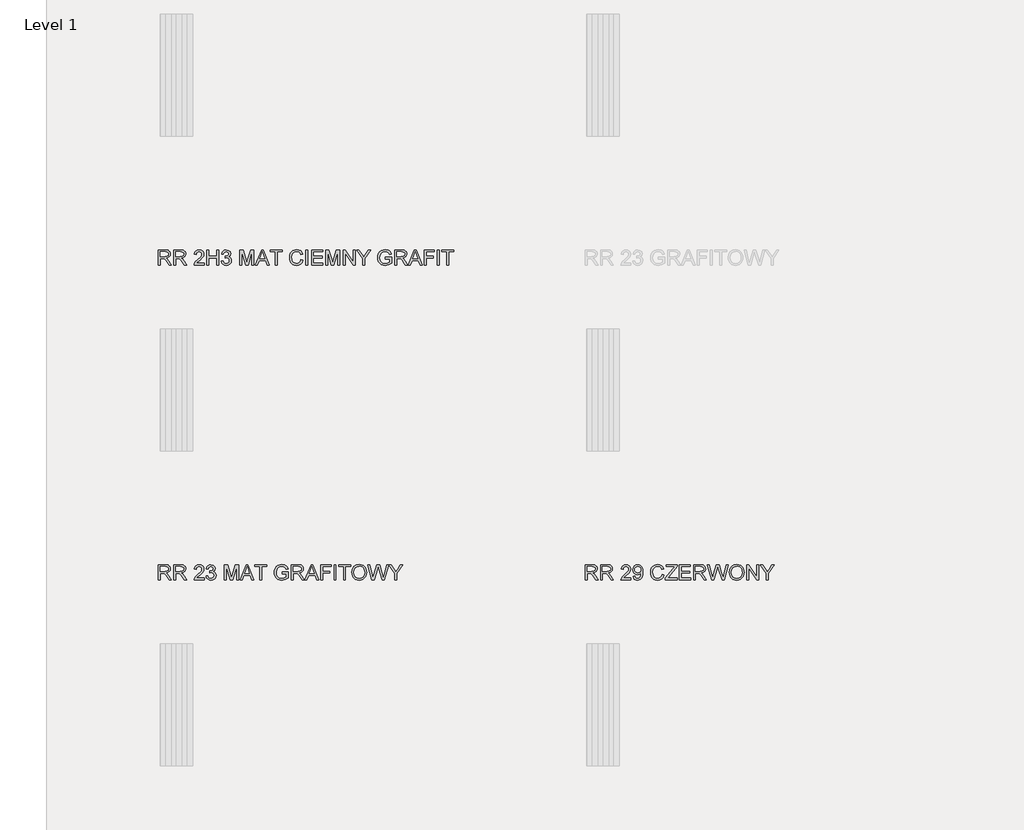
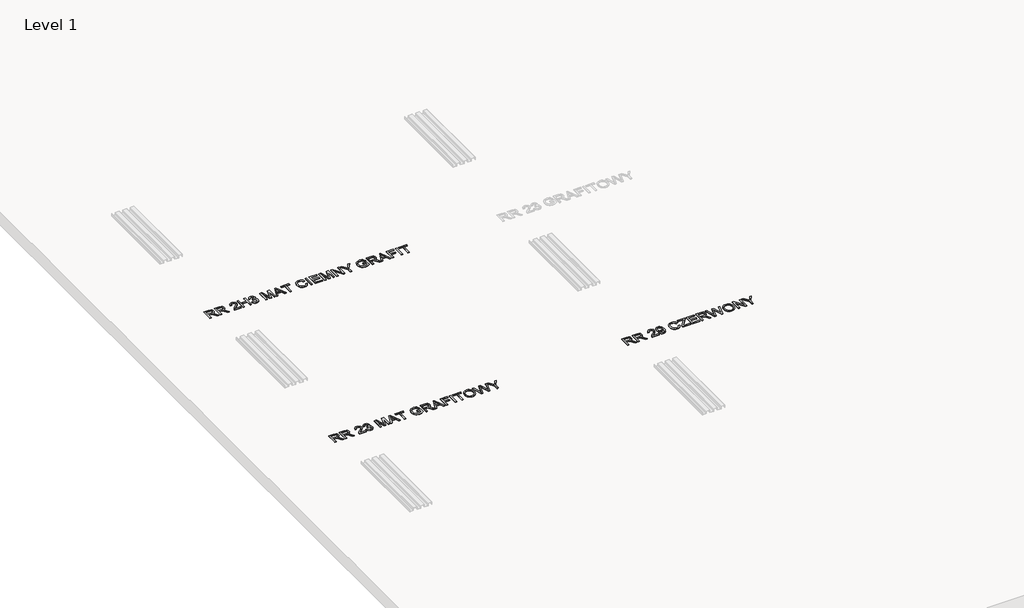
# One storey, part 4 of 9: 3 proxies.
"""IFC4 building model written with IfcOpenShell, lengths in millimetres."""

from ifc_helpers import new_model, si_unit, frame, origin, place, context, project, spatial, polyline, outline, extrude, element, save

model = new_model("IFC4")

# Units and contexts
model_context = context("Model", 3, world=origin())
ifc_project = project(units=[si_unit("LENGTHUNIT", "METRE", prefix="MILLI")], contexts=[model_context])

# Site, building, storey
site = spatial("IfcSite", under=ifc_project)
building = spatial("IfcBuilding", under=site)
storey = spatial("IfcBuildingStorey", under=building, Name="Level 1", Elevation=0.0)

# Proxies
placement = place(None, origin())
element("IfcBuildingElementProxy", 1, Name="150 Blue", ObjectType="150 Blue", at=placement, inside=storey, context=model_context, shape_type="SweptSolid", body=[
    extrude(outline(polyline([(-8736.4118342, -1635.6514112), (-8736.4118342, -1484.966946), (-8671.4806621, -1484.966946), (-8641.3327325, -1489.032042), (-8632.0529092, -1494.6606365), (-8624.8516192, -1503.416228), (-8620.2301016, -1514.2733454), (-8618.6895957, -1526.2065176), (-8621.2417771, -1541.0505561), (-8628.8983211, -1553.3562089), (-8641.8891541, -1562.3785148), (-8660.4442022, -1567.3725129), (-8649.7388361, -1575.4291286), (-8634.4717333, -1594.8165097), (-8609.3453931, -1635.6514112), (-8631.2343718, -1635.6514112), (-8650.8424821, -1604.4182298), (-8665.0059389, -1583.7432617), (-8674.9571469, -1573.9759947), (-8683.9150735, -1570.3891452), (-8694.8411687, -1569.7269577), (-8717.576276, -1569.7269577), (-8717.576276, -1635.6514112), (-8736.4118342, -1635.6514112)]), holes=[polyline([(-8717.576276, -1550.8913995), (-8675.4169994, -1550.8913995), (-8653.9142968, -1548.224255), (-8641.7006145, -1539.6893927), (-8637.5251539, -1526.9054934), (-8639.5163152, -1517.7176406), (-8645.4897991, -1510.3140154), (-8655.7675023, -1505.4303819), (-8670.6713217, -1503.8025041), (-8717.576276, -1503.8025041), (-8717.576276, -1550.8913995)])]), frame((0.0, 0.0, 600.0), z_axis=(0.0, 0.0, 1.0), x_axis=(1.0, 0.0, 0.0)), (0.0, 0.0, 1.0), 10.0),
    extrude(outline(polyline([(-8585.727369, -1635.6514112), (-8585.727369, -1484.966946), (-8520.7961968, -1484.966946), (-8490.6482673, -1489.032042), (-8481.368444, -1494.6606365), (-8474.1671539, -1503.416228), (-8469.5456364, -1514.2733454), (-8468.0051305, -1526.2065176), (-8470.5573119, -1541.0505561), (-8478.2138559, -1553.3562089), (-8491.2046888, -1562.3785148), (-8509.759737, -1567.3725129), (-8499.0543709, -1575.4291286), (-8483.7872681, -1594.8165097), (-8458.6609278, -1635.6514112), (-8480.5499066, -1635.6514112), (-8500.1580169, -1604.4182298), (-8514.3214737, -1583.7432617), (-8524.2726817, -1573.9759947), (-8533.2306083, -1570.3891452), (-8544.1567035, -1569.7269577), (-8566.8918108, -1569.7269577), (-8566.8918108, -1635.6514112), (-8585.727369, -1635.6514112)]), holes=[polyline([(-8566.8918108, -1550.8913995), (-8524.7325342, -1550.8913995), (-8503.2298316, -1548.224255), (-8491.0161493, -1539.6893927), (-8486.8406887, -1526.9054934), (-8488.83185, -1517.7176406), (-8494.8053339, -1510.3140154), (-8505.0830371, -1505.4303819), (-8519.9868564, -1503.8025041), (-8566.8918108, -1503.8025041), (-8566.8918108, -1550.8913995)])]), frame((0.0, 0.0, 600.0), z_axis=(0.0, 0.0, 1.0), x_axis=(1.0, 0.0, 0.0)), (0.0, 0.0, 1.0), 10.0),
    extrude(outline(polyline([(-8286.7128833, -1616.815853), (-8286.7128833, -1635.6514112), (-8385.5995636, -1635.6514112), (-8383.5762126, -1622.6651768), (-8372.1166885, -1602.6707903), (-8348.5170585, -1580.8369939), (-8316.0146842, -1549.4566597), (-8309.9308357, -1538.6409291), (-8307.9028862, -1528.119504), (-8309.8204711, -1518.6879293), (-8315.5732258, -1510.8474443), (-8324.4161893, -1505.5637392), (-8335.6044005, -1503.8025041), (-8347.3536317, -1505.5223524), (-8356.4817037, -1510.6818974), (-8362.3724141, -1518.8764689), (-8364.4095607, -1529.7013966), (-8383.2451188, -1527.3469518), (-8378.6787836, -1509.127596), (-8368.8057505, -1495.8194648), (-8354.1410545, -1487.6800757), (-8335.1997303, -1484.966946), (-8316.1204503, -1487.9835783), (-8301.4833454, -1497.0334754), (-8292.1713324, -1510.5531387), (-8289.0673281, -1526.9790698), (-8292.4150542, -1544.8397407), (-8303.5434846, -1563.3074168), (-8330.5276289, -1589.1143388), (-8352.1958784, -1607.2325271), (-8360.6939525, -1616.815853), (-8286.7128833, -1616.815853)])), frame((0.0, 0.0, 600.0), z_axis=(0.0, 0.0, 1.0), x_axis=(1.0, 0.0, 0.0)), (0.0, 0.0, 1.0), 10.0),
    extrude(outline(polyline([(-8260.8139908, -1635.6514112), (-8260.8139908, -1484.966946), (-8241.9784327, -1484.966946), (-8241.9784327, -1546.18251), (-8161.9273105, -1546.18251), (-8161.9273105, -1484.966946), (-8143.0917524, -1484.966946), (-8143.0917524, -1635.6514112), (-8161.9273105, -1635.6514112), (-8161.9273105, -1565.0180681), (-8241.9784327, -1565.0180681), (-8241.9784327, -1635.6514112), (-8260.8139908, -1635.6514112)])), frame((0.0, 0.0, 600.0), z_axis=(0.0, 0.0, 1.0), x_axis=(1.0, 0.0, 0.0)), (0.0, 0.0, 1.0), 10.0),
    extrude(outline(polyline([(-8117.1928599, -1595.6258501), (-8098.3573018, -1593.2714053), (-8094.1404544, -1605.1080085), (-8087.9646354, -1613.1002449), (-8079.5263421, -1617.6527846), (-8068.522072, -1619.1702978), (-8055.6094139, -1617.0825675), (-8045.6398119, -1610.8193765), (-8039.2662563, -1601.4751738), (-8037.1417378, -1590.1444084), (-8039.2478622, -1579.3884586), (-8045.5662355, -1570.6650567), (-8055.1311673, -1564.8847109), (-8066.9769676, -1562.9579289), (-8080.1839312, -1565.0180681), (-8078.0870038, -1546.18251), (-8075.0703715, -1546.4032392), (-8053.6964276, -1540.9953738), (-8046.5779109, -1534.1343746), (-8044.2050721, -1524.3671076), (-8045.9249204, -1516.232317), (-8051.0844654, -1509.6334337), (-8058.9571401, -1505.2602365), (-8068.8163776, -1503.8025041), (-8078.6940091, -1505.2740321), (-8086.7690189, -1509.688616), (-8092.6643279, -1517.0462559), (-8096.002857, -1527.3469518), (-8114.8384152, -1524.992507), (-8109.2925941, -1508.0791323), (-8099.4241596, -1495.4515828), (-8085.9228903, -1487.5881052), (-8069.4785651, -1484.966946), (-8046.7618519, -1490.135688), (-8030.8693498, -1504.2623566), (-8025.3695139, -1523.2634617), (-8030.5934383, -1540.6274918), (-8046.0444821, -1553.0986915), (-8034.2538641, -1557.8627633), (-8025.5166667, -1565.9745613), (-8020.1088014, -1576.9926271), (-8018.3061796, -1590.4755022), (-8021.9114232, -1608.8328137), (-8032.7271538, -1624.1734929), (-8049.0519174, -1634.5477652), (-8069.1842596, -1638.005856), (-8087.3944183, -1635.0536029), (-8102.2200627, -1626.1968439), (-8112.5299556, -1612.6495894), (-8117.1928599, -1595.6258501)])), frame((0.0, 0.0, 600.0), z_axis=(0.0, 0.0, 1.0), x_axis=(1.0, 0.0, 0.0)), (0.0, 0.0, 1.0), 10.0),
    extrude(outline(polyline([(-7935.9006127, -1635.6514112), (-7935.9006127, -1484.966946), (-7903.6005735, -1484.966946), (-7872.6984859, -1591.174478), (-7866.444492, -1613.3577623), (-7859.7122515, -1589.335068), (-7829.3987751, -1484.966946), (-7796.9883713, -1484.966946), (-7796.9883713, -1635.6514112), (-7815.8239295, -1635.6514112), (-7815.8239295, -1503.8025041), (-7853.6789868, -1635.6514112), (-7879.173209, -1635.6514112), (-7917.0650545, -1503.8025041), (-7917.0650545, -1635.6514112), (-7935.9006127, -1635.6514112)])), frame((0.0, 0.0, 600.0), z_axis=(0.0, 0.0, 1.0), x_axis=(1.0, 0.0, 0.0)), (0.0, 0.0, 1.0), 10.0),
    extrude(outline(polyline([(-7781.5373275, -1635.6514112), (-7721.3886213, -1484.966946), (-7705.3489663, -1484.966946), (-7645.2370483, -1635.6514112), (-7665.1394642, -1635.6514112), (-7682.3563416, -1588.5625158), (-7744.4548224, -1588.5625158), (-7761.6716998, -1635.6514112), (-7781.5373275, -1635.6514112)]), holes=[polyline([(-7737.5386409, -1569.7269577), (-7689.2357349, -1569.7269577), (-7702.8473688, -1532.6812407), (-7713.405582, -1503.8025041), (-7722.7865729, -1529.4438792), (-7737.5386409, -1569.7269577)])]), frame((0.0, 0.0, 600.0), z_axis=(0.0, 0.0, 1.0), x_axis=(1.0, 0.0, 0.0)), (0.0, 0.0, 1.0), 10.0),
    extrude(outline(polyline([(-7587.4427869, -1635.6514112), (-7587.4427869, -1503.8025041), (-7636.886127, -1503.8025041), (-7636.886127, -1484.966946), (-7519.1638886, -1484.966946), (-7519.1638886, -1503.8025041), (-7568.6072287, -1503.8025041), (-7568.6072287, -1635.6514112), (-7587.4427869, -1635.6514112)])), frame((0.0, 0.0, 600.0), z_axis=(0.0, 0.0, 1.0), x_axis=(1.0, 0.0, 0.0)), (0.0, 0.0, 1.0), 10.0),
    extrude(outline(polyline([(-7333.1627518, -1582.0877927), (-7314.3271936, -1586.943835), (-7323.0184058, -1608.8925946), (-7336.6576308, -1624.927651), (-7354.5734839, -1634.7363047), (-7376.0945806, -1638.005856), (-7397.9421726, -1635.5318495), (-7415.2924072, -1628.1098303), (-7428.5913413, -1615.9973156), (-7438.2850319, -1599.4518229), (-7444.2033335, -1580.0000624), (-7446.1761007, -1559.1687444), (-7443.9458161, -1537.1969922), (-7437.2549623, -1518.2234783), (-7426.4530273, -1502.8506095), (-7411.8894988, -1491.6807924), (-7394.6174391, -1484.879574), (-7375.6899104, -1482.6125012), (-7355.0379349, -1485.5463601), (-7337.9636118, -1494.3479368), (-7325.00037, -1508.4746055), (-7316.6816384, -1527.38374), (-7335.5171966, -1531.8719003), (-7342.047102, -1518.1361064), (-7350.9682404, -1508.7137288), (-7362.3909763, -1503.2644767), (-7376.4256744, -1501.4480593), (-7392.6032852, -1503.4622133), (-7405.8930222, -1509.504675), (-7415.9775874, -1518.9408482), (-7422.5396825, -1531.1361364), (-7427.3405426, -1559.1319562), (-7425.9195984, -1576.5327746), (-7421.6567657, -1591.5791482), (-7414.3910963, -1603.6962614), (-7403.9616418, -1612.3092986), (-7391.4582525, -1617.455048), (-7377.9707788, -1619.1702978), (-7362.248422, -1616.8342471), (-7349.1472245, -1609.8260951), (-7339.2557973, -1598.2194182), (-7333.1627518, -1582.0877927)])), frame((0.0, 0.0, 600.0), z_axis=(0.0, 0.0, 1.0), x_axis=(1.0, 0.0, 0.0)), (0.0, 0.0, 1.0), 10.0),
    extrude(outline(polyline([(-7286.0738564, -1635.6514112), (-7286.0738564, -1484.966946), (-7267.2382983, -1484.966946), (-7267.2382983, -1635.6514112), (-7286.0738564, -1635.6514112)])), frame((0.0, 0.0, 600.0), z_axis=(0.0, 0.0, 1.0), x_axis=(1.0, 0.0, 0.0)), (0.0, 0.0, 1.0), 10.0),
    extrude(outline(polyline([(-7229.567182, -1635.6514112), (-7229.567182, -1484.966946), (-7121.2627226, -1484.966946), (-7121.2627226, -1503.8025041), (-7210.7316238, -1503.8025041), (-7210.7316238, -1548.5369547), (-7125.9716121, -1548.5369547), (-7125.9716121, -1567.3725129), (-7210.7316238, -1567.3725129), (-7210.7316238, -1616.815853), (-7118.9082778, -1616.815853), (-7118.9082778, -1635.6514112), (-7229.567182, -1635.6514112)])), frame((0.0, 0.0, 600.0), z_axis=(0.0, 0.0, 1.0), x_axis=(1.0, 0.0, 0.0)), (0.0, 0.0, 1.0), 10.0),
    extrude(outline(polyline([(-7090.6549406, -1635.6514112), (-7090.6549406, -1484.966946), (-7058.3549014, -1484.966946), (-7027.4528138, -1591.174478), (-7021.1988199, -1613.3577623), (-7014.4665794, -1589.335068), (-6984.153103, -1484.966946), (-6951.7426992, -1484.966946), (-6951.7426992, -1635.6514112), (-6970.5782574, -1635.6514112), (-6970.5782574, -1503.8025041), (-7008.4333147, -1635.6514112), (-7033.9275369, -1635.6514112), (-7071.8193824, -1503.8025041), (-7071.8193824, -1635.6514112), (-7090.6549406, -1635.6514112)])), frame((0.0, 0.0, 600.0), z_axis=(0.0, 0.0, 1.0), x_axis=(1.0, 0.0, 0.0)), (0.0, 0.0, 1.0), 10.0),
    extrude(outline(polyline([(-6918.7804724, -1635.6514112), (-6918.7804724, -1484.966946), (-6898.6205391, -1484.966946), (-6819.8937921, -1604.3446534), (-6819.8937921, -1484.966946), (-6801.058234, -1484.966946), (-6801.058234, -1635.6514112), (-6821.2181673, -1635.6514112), (-6899.9449143, -1516.2369156), (-6899.9449143, -1635.6514112), (-6918.7804724, -1635.6514112)])), frame((0.0, 0.0, 600.0), z_axis=(0.0, 0.0, 1.0), x_axis=(1.0, 0.0, 0.0)), (0.0, 0.0, 1.0), 10.0),
    extrude(outline(polyline([(-6725.7160014, -1635.6514112), (-6725.7160014, -1571.823885), (-6784.5771206, -1484.966946), (-6762.3938363, -1484.966946), (-6730.9767139, -1531.3568656), (-6714.9002707, -1555.048466), (-6698.7502511, -1529.6646084), (-6670.2393965, -1484.966946), (-6648.019324, -1484.966946), (-6706.8804432, -1571.823885), (-6706.8804432, -1635.6514112), (-6725.7160014, -1635.6514112)])), frame((0.0, 0.0, 600.0), z_axis=(0.0, 0.0, 1.0), x_axis=(1.0, 0.0, 0.0)), (0.0, 0.0, 1.0), 10.0),
    extrude(outline(polyline([(-6502.0437483, -1576.790292), (-6502.0437483, -1557.9547338), (-6440.8281843, -1557.9547338), (-6440.8281843, -1614.2774673), (-6471.0496902, -1632.0461676), (-6503.0002415, -1638.005856), (-6524.1304636, -1635.6376156), (-6543.2281377, -1628.5328946), (-6559.0930487, -1616.9400132), (-6570.5249817, -1601.1072918), (-6577.4365647, -1582.1153838), (-6579.7404257, -1561.0449426), (-6577.4457617, -1539.82275), (-6570.5617699, -1520.0812824), (-6559.3735587, -1503.5219941), (-6544.1662367, -1491.8463393), (-6525.6433783, -1484.9209607), (-6504.5085577, -1482.6125012), (-6475.0412099, -1487.9651842), (-6463.2919786, -1494.3663309), (-6454.3846358, -1502.864405), (-6442.9986881, -1527.7884102), (-6460.3627182, -1532.6812407), (-6468.9527628, -1515.2620283), (-6483.6312544, -1505.2188498), (-6504.8028633, -1501.4480593), (-6528.917528, -1505.5131554), (-6545.325065, -1516.1817333), (-6555.0187556, -1530.694678), (-6560.9048675, -1560.2723904), (-6559.1344354, -1578.2848126), (-6553.8231391, -1593.1058584), (-6545.131927, -1604.6297619), (-6533.2217474, -1612.750757), (-6519.2836183, -1617.5654126), (-6504.5085577, -1619.1702978), (-6478.7384239, -1614.3326496), (-6459.6637425, -1604.0135596), (-6459.6637425, -1576.790292), (-6502.0437483, -1576.790292)])), frame((0.0, 0.0, 600.0), z_axis=(0.0, 0.0, 1.0), x_axis=(1.0, 0.0, 0.0)), (0.0, 0.0, 1.0), 10.0),
    extrude(outline(polyline([(-6410.2204023, -1635.6514112), (-6410.2204023, -1484.966946), (-6345.2892302, -1484.966946), (-6315.1413006, -1489.032042), (-6305.8614773, -1494.6606365), (-6298.6601873, -1503.416228), (-6294.0386697, -1514.2733454), (-6292.4981638, -1526.2065176), (-6295.0503452, -1541.0505561), (-6302.7068892, -1553.3562089), (-6315.6977222, -1562.3785148), (-6334.2527703, -1567.3725129), (-6323.5474042, -1575.4291286), (-6308.2803014, -1594.8165097), (-6283.1539612, -1635.6514112), (-6305.0429399, -1635.6514112), (-6324.6510502, -1604.4182298), (-6338.814507, -1583.7432617), (-6348.765715, -1573.9759947), (-6357.7236416, -1570.3891452), (-6368.6497368, -1569.7269577), (-6391.3848441, -1569.7269577), (-6391.3848441, -1635.6514112), (-6410.2204023, -1635.6514112)]), holes=[polyline([(-6391.3848441, -1550.8913995), (-6349.2255675, -1550.8913995), (-6327.7228649, -1548.224255), (-6315.5091826, -1539.6893927), (-6311.333722, -1526.9054934), (-6313.3248833, -1517.7176406), (-6319.2983672, -1510.3140154), (-6329.5760704, -1505.4303819), (-6344.4798898, -1503.8025041), (-6391.3848441, -1503.8025041), (-6391.3848441, -1550.8913995)])]), frame((0.0, 0.0, 600.0), z_axis=(0.0, 0.0, 1.0), x_axis=(1.0, 0.0, 0.0)), (0.0, 0.0, 1.0), 10.0),
    extrude(outline(polyline([(-6277.04712, -1635.6514112), (-6216.8984138, -1484.966946), (-6200.8587588, -1484.966946), (-6140.7468408, -1635.6514112), (-6160.6492568, -1635.6514112), (-6177.8661341, -1588.5625158), (-6239.9646149, -1588.5625158), (-6257.1814923, -1635.6514112), (-6277.04712, -1635.6514112)]), holes=[polyline([(-6233.0484334, -1569.7269577), (-6184.7455275, -1569.7269577), (-6198.3571613, -1532.6812407), (-6208.9153745, -1503.8025041), (-6218.2963654, -1529.4438792), (-6233.0484334, -1569.7269577)])]), frame((0.0, 0.0, 600.0), z_axis=(0.0, 0.0, 1.0), x_axis=(1.0, 0.0, 0.0)), (0.0, 0.0, 1.0), 10.0),
    extrude(outline(polyline([(-6120.6236957, -1635.6514112), (-6120.6236957, -1484.966946), (-6019.3825706, -1484.966946), (-6019.3825706, -1503.8025041), (-6101.7881375, -1503.8025041), (-6101.7881375, -1548.5369547), (-6031.1547945, -1548.5369547), (-6031.1547945, -1567.3725129), (-6101.7881375, -1567.3725129), (-6101.7881375, -1635.6514112), (-6120.6236957, -1635.6514112)])), frame((0.0, 0.0, 600.0), z_axis=(0.0, 0.0, 1.0), x_axis=(1.0, 0.0, 0.0)), (0.0, 0.0, 1.0), 10.0),
    extrude(outline(polyline([(-5991.1292334, -1635.6514112), (-5991.1292334, -1484.966946), (-5972.2936752, -1484.966946), (-5972.2936752, -1635.6514112), (-5991.1292334, -1635.6514112)])), frame((0.0, 0.0, 600.0), z_axis=(0.0, 0.0, 1.0), x_axis=(1.0, 0.0, 0.0)), (0.0, 0.0, 1.0), 10.0),
    extrude(outline(polyline([(-5896.9514426, -1635.6514112), (-5896.9514426, -1503.8025041), (-5946.3947828, -1503.8025041), (-5946.3947828, -1484.966946), (-5828.6725443, -1484.966946), (-5828.6725443, -1503.8025041), (-5878.1158845, -1503.8025041), (-5878.1158845, -1635.6514112), (-5896.9514426, -1635.6514112)])), frame((0.0, 0.0, 600.0), z_axis=(0.0, 0.0, 1.0), x_axis=(1.0, 0.0, 0.0)), (0.0, 0.0, 1.0), 10.0),
])
element("IfcBuildingElementProxy", 2, Name="150 Blue", ObjectType="150 Blue", at=placement, inside=storey, context=model_context, shape_type="SweptSolid", body=[
    extrude(outline(polyline([(-8736.4118342, -4735.6514112), (-8736.4118342, -4584.966946), (-8671.4806621, -4584.966946), (-8641.3327325, -4589.032042), (-8632.0529092, -4594.6606365), (-8624.8516192, -4603.416228), (-8620.2301016, -4614.2733454), (-8618.6895957, -4626.2065176), (-8621.2417771, -4641.0505561), (-8628.8983211, -4653.3562089), (-8641.8891541, -4662.3785148), (-8660.4442022, -4667.3725129), (-8649.7388361, -4675.4291286), (-8634.4717333, -4694.8165097), (-8609.3453931, -4735.6514112), (-8631.2343718, -4735.6514112), (-8650.8424821, -4704.4182298), (-8665.0059389, -4683.7432617), (-8674.9571469, -4673.9759947), (-8683.9150735, -4670.3891452), (-8694.8411687, -4669.7269577), (-8717.576276, -4669.7269577), (-8717.576276, -4735.6514112), (-8736.4118342, -4735.6514112)]), holes=[polyline([(-8717.576276, -4650.8913995), (-8675.4169994, -4650.8913995), (-8653.9142968, -4648.224255), (-8641.7006145, -4639.6893927), (-8637.5251539, -4626.9054934), (-8639.5163152, -4617.7176406), (-8645.4897991, -4610.3140154), (-8655.7675023, -4605.4303819), (-8670.6713217, -4603.8025041), (-8717.576276, -4603.8025041), (-8717.576276, -4650.8913995)])]), frame((0.0, 0.0, 600.0), z_axis=(0.0, 0.0, 1.0), x_axis=(1.0, 0.0, 0.0)), (0.0, 0.0, 1.0), 10.0),
    extrude(outline(polyline([(-8585.727369, -4735.6514112), (-8585.727369, -4584.966946), (-8520.7961968, -4584.966946), (-8490.6482673, -4589.032042), (-8481.368444, -4594.6606365), (-8474.1671539, -4603.416228), (-8469.5456364, -4614.2733454), (-8468.0051305, -4626.2065176), (-8470.5573119, -4641.0505561), (-8478.2138559, -4653.3562089), (-8491.2046888, -4662.3785148), (-8509.759737, -4667.3725129), (-8499.0543709, -4675.4291286), (-8483.7872681, -4694.8165097), (-8458.6609278, -4735.6514112), (-8480.5499066, -4735.6514112), (-8500.1580169, -4704.4182298), (-8514.3214737, -4683.7432617), (-8524.2726817, -4673.9759947), (-8533.2306083, -4670.3891452), (-8544.1567035, -4669.7269577), (-8566.8918108, -4669.7269577), (-8566.8918108, -4735.6514112), (-8585.727369, -4735.6514112)]), holes=[polyline([(-8566.8918108, -4650.8913995), (-8524.7325342, -4650.8913995), (-8503.2298316, -4648.224255), (-8491.0161493, -4639.6893927), (-8486.8406887, -4626.9054934), (-8488.83185, -4617.7176406), (-8494.8053339, -4610.3140154), (-8505.0830371, -4605.4303819), (-8519.9868564, -4603.8025041), (-8566.8918108, -4603.8025041), (-8566.8918108, -4650.8913995)])]), frame((0.0, 0.0, 600.0), z_axis=(0.0, 0.0, 1.0), x_axis=(1.0, 0.0, 0.0)), (0.0, 0.0, 1.0), 10.0),
    extrude(outline(polyline([(-8286.7128833, -4716.815853), (-8286.7128833, -4735.6514112), (-8385.5995636, -4735.6514112), (-8383.5762126, -4722.6651768), (-8372.1166885, -4702.6707903), (-8348.5170585, -4680.8369939), (-8316.0146842, -4649.4566597), (-8309.9308357, -4638.6409291), (-8307.9028862, -4628.119504), (-8309.8204711, -4618.6879293), (-8315.5732258, -4610.8474443), (-8324.4161893, -4605.5637392), (-8335.6044005, -4603.8025041), (-8347.3536317, -4605.5223524), (-8356.4817037, -4610.6818974), (-8362.3724141, -4618.8764689), (-8364.4095607, -4629.7013966), (-8383.2451188, -4627.3469518), (-8378.6787836, -4609.127596), (-8368.8057505, -4595.8194648), (-8354.1410545, -4587.6800757), (-8335.1997303, -4584.966946), (-8316.1204503, -4587.9835783), (-8301.4833454, -4597.0334754), (-8292.1713324, -4610.5531387), (-8289.0673281, -4626.9790698), (-8292.4150542, -4644.8397407), (-8303.5434846, -4663.3074168), (-8330.5276289, -4689.1143388), (-8352.1958784, -4707.2325271), (-8360.6939525, -4716.815853), (-8286.7128833, -4716.815853)])), frame((0.0, 0.0, 600.0), z_axis=(0.0, 0.0, 1.0), x_axis=(1.0, 0.0, 0.0)), (0.0, 0.0, 1.0), 10.0),
    extrude(outline(polyline([(-8267.8773251, -4695.6258501), (-8249.041767, -4693.2714053), (-8244.8249196, -4705.1080085), (-8238.6491006, -4713.1002449), (-8230.2108074, -4717.6527846), (-8219.2065372, -4719.1702978), (-8206.2938792, -4717.0825675), (-8196.3242771, -4710.8193765), (-8189.9507215, -4701.4751738), (-8187.826203, -4690.1444084), (-8189.9323274, -4679.3884586), (-8196.2507007, -4670.6650567), (-8205.8156326, -4664.8847109), (-8217.6614328, -4662.9579289), (-8230.8683964, -4665.0180681), (-8228.7714691, -4646.18251), (-8225.7548367, -4646.4032392), (-8204.3808928, -4640.9953738), (-8197.2623762, -4634.1343746), (-8194.8895373, -4624.3671076), (-8196.6093856, -4616.232317), (-8201.7689306, -4609.6334337), (-8209.6416053, -4605.2602365), (-8219.5008428, -4603.8025041), (-8229.3784744, -4605.2740321), (-8237.4534841, -4609.688616), (-8243.3487931, -4617.0462559), (-8246.6873222, -4627.3469518), (-8265.5228804, -4624.992507), (-8259.9770593, -4608.0791323), (-8250.1086248, -4595.4515828), (-8236.6073556, -4587.5881052), (-8220.1630304, -4584.966946), (-8197.4463172, -4590.135688), (-8181.553815, -4604.2623566), (-8176.0539791, -4623.2634617), (-8181.2779035, -4640.6274918), (-8196.7289473, -4653.0986915), (-8184.9383293, -4657.8627633), (-8176.2011319, -4665.9745613), (-8170.7932666, -4676.9926271), (-8168.9906448, -4690.4755022), (-8172.5958884, -4708.8328137), (-8183.4116191, -4724.1734929), (-8199.7363826, -4734.5477652), (-8219.8687248, -4738.005856), (-8238.0788835, -4735.0536029), (-8252.9045279, -4726.1968439), (-8263.2144209, -4712.6495894), (-8267.8773251, -4695.6258501)])), frame((0.0, 0.0, 600.0), z_axis=(0.0, 0.0, 1.0), x_axis=(1.0, 0.0, 0.0)), (0.0, 0.0, 1.0), 10.0),
    extrude(outline(polyline([(-8086.5850779, -4735.6514112), (-8086.5850779, -4584.966946), (-8054.2850387, -4584.966946), (-8023.3829512, -4691.174478), (-8017.1289572, -4713.3577623), (-8010.3967167, -4689.335068), (-7980.0832403, -4584.966946), (-7947.6728365, -4584.966946), (-7947.6728365, -4735.6514112), (-7966.5083947, -4735.6514112), (-7966.5083947, -4603.8025041), (-8004.363452, -4735.6514112), (-8029.8576743, -4735.6514112), (-8067.7495198, -4603.8025041), (-8067.7495198, -4735.6514112), (-8086.5850779, -4735.6514112)])), frame((0.0, 0.0, 600.0), z_axis=(0.0, 0.0, 1.0), x_axis=(1.0, 0.0, 0.0)), (0.0, 0.0, 1.0), 10.0),
    extrude(outline(polyline([(-7932.2217927, -4735.6514112), (-7872.0730865, -4584.966946), (-7856.0334315, -4584.966946), (-7795.9215135, -4735.6514112), (-7815.8239295, -4735.6514112), (-7833.0408068, -4688.5625158), (-7895.1392876, -4688.5625158), (-7912.356165, -4735.6514112), (-7932.2217927, -4735.6514112)]), holes=[polyline([(-7888.2231061, -4669.7269577), (-7839.9202002, -4669.7269577), (-7853.531834, -4632.6812407), (-7864.0900472, -4603.8025041), (-7873.4710381, -4629.4438792), (-7888.2231061, -4669.7269577)])]), frame((0.0, 0.0, 600.0), z_axis=(0.0, 0.0, 1.0), x_axis=(1.0, 0.0, 0.0)), (0.0, 0.0, 1.0), 10.0),
    extrude(outline(polyline([(-7738.1272521, -4735.6514112), (-7738.1272521, -4603.8025041), (-7787.5705922, -4603.8025041), (-7787.5705922, -4584.966946), (-7669.8483538, -4584.966946), (-7669.8483538, -4603.8025041), (-7719.2916939, -4603.8025041), (-7719.2916939, -4735.6514112), (-7738.1272521, -4735.6514112)])), frame((0.0, 0.0, 600.0), z_axis=(0.0, 0.0, 1.0), x_axis=(1.0, 0.0, 0.0)), (0.0, 0.0, 1.0), 10.0),
    extrude(outline(polyline([(-7519.1638886, -4676.790292), (-7519.1638886, -4657.9547338), (-7457.9483246, -4657.9547338), (-7457.9483246, -4714.2774673), (-7488.1698305, -4732.0461676), (-7520.1203817, -4738.005856), (-7541.2506038, -4735.6376156), (-7560.3482779, -4728.5328946), (-7576.213189, -4716.9400132), (-7587.645122, -4701.1072918), (-7594.5567049, -4682.1153838), (-7596.8605659, -4661.0449426), (-7594.565902, -4639.82275), (-7587.6819102, -4620.0812824), (-7576.493699, -4603.5219941), (-7561.286377, -4591.8463393), (-7542.7635186, -4584.9209607), (-7521.6286979, -4582.6125012), (-7492.1613501, -4587.9651842), (-7480.4121189, -4594.3663309), (-7471.5047761, -4602.864405), (-7460.1188283, -4627.7884102), (-7477.4828585, -4632.6812407), (-7486.0729031, -4615.2620283), (-7500.7513947, -4605.2188498), (-7521.9230035, -4601.4480593), (-7546.0376683, -4605.5131554), (-7562.4452053, -4616.1817333), (-7572.1388959, -4630.694678), (-7578.0250078, -4660.2723904), (-7576.2545757, -4678.2848126), (-7570.9432794, -4693.1058584), (-7562.2520672, -4704.6297619), (-7550.3418877, -4712.750757), (-7536.4037586, -4717.5654126), (-7521.6286979, -4719.1702978), (-7495.8585642, -4714.3326496), (-7476.7838827, -4704.0135596), (-7476.7838827, -4676.790292), (-7519.1638886, -4676.790292)])), frame((0.0, 0.0, 600.0), z_axis=(0.0, 0.0, 1.0), x_axis=(1.0, 0.0, 0.0)), (0.0, 0.0, 1.0), 10.0),
    extrude(outline(polyline([(-7427.3405426, -4735.6514112), (-7427.3405426, -4584.966946), (-7362.4093704, -4584.966946), (-7332.2614409, -4589.032042), (-7322.9816176, -4594.6606365), (-7315.7803275, -4603.416228), (-7311.15881, -4614.2733454), (-7309.6183041, -4626.2065176), (-7312.1704855, -4641.0505561), (-7319.8270295, -4653.3562089), (-7332.8178624, -4662.3785148), (-7351.3729106, -4667.3725129), (-7340.6675445, -4675.4291286), (-7325.4004417, -4694.8165097), (-7300.2741014, -4735.6514112), (-7322.1630801, -4735.6514112), (-7341.7711905, -4704.4182298), (-7355.9346473, -4683.7432617), (-7365.8858553, -4673.9759947), (-7374.8437819, -4670.3891452), (-7385.7698771, -4669.7269577), (-7408.5049844, -4669.7269577), (-7408.5049844, -4735.6514112), (-7427.3405426, -4735.6514112)]), holes=[polyline([(-7408.5049844, -4650.8913995), (-7366.3457078, -4650.8913995), (-7344.8430051, -4648.224255), (-7332.6293229, -4639.6893927), (-7328.4538623, -4626.9054934), (-7330.4450236, -4617.7176406), (-7336.4185075, -4610.3140154), (-7346.6962107, -4605.4303819), (-7361.60003, -4603.8025041), (-7408.5049844, -4603.8025041), (-7408.5049844, -4650.8913995)])]), frame((0.0, 0.0, 600.0), z_axis=(0.0, 0.0, 1.0), x_axis=(1.0, 0.0, 0.0)), (0.0, 0.0, 1.0), 10.0),
    extrude(outline(polyline([(-7294.1672603, -4735.6514112), (-7234.0185541, -4584.966946), (-7217.9788991, -4584.966946), (-7157.8669811, -4735.6514112), (-7177.769397, -4735.6514112), (-7194.9862744, -4688.5625158), (-7257.0847552, -4688.5625158), (-7274.3016326, -4735.6514112), (-7294.1672603, -4735.6514112)]), holes=[polyline([(-7250.1685737, -4669.7269577), (-7201.8656677, -4669.7269577), (-7215.4773015, -4632.6812407), (-7226.0355148, -4603.8025041), (-7235.4165057, -4629.4438792), (-7250.1685737, -4669.7269577)])]), frame((0.0, 0.0, 600.0), z_axis=(0.0, 0.0, 1.0), x_axis=(1.0, 0.0, 0.0)), (0.0, 0.0, 1.0), 10.0),
    extrude(outline(polyline([(-7137.743836, -4735.6514112), (-7137.743836, -4584.966946), (-7036.5027109, -4584.966946), (-7036.5027109, -4603.8025041), (-7118.9082778, -4603.8025041), (-7118.9082778, -4648.5369547), (-7048.2749347, -4648.5369547), (-7048.2749347, -4667.3725129), (-7118.9082778, -4667.3725129), (-7118.9082778, -4735.6514112), (-7137.743836, -4735.6514112)])), frame((0.0, 0.0, 600.0), z_axis=(0.0, 0.0, 1.0), x_axis=(1.0, 0.0, 0.0)), (0.0, 0.0, 1.0), 10.0),
    extrude(outline(polyline([(-7008.2493737, -4735.6514112), (-7008.2493737, -4584.966946), (-6989.4138155, -4584.966946), (-6989.4138155, -4735.6514112), (-7008.2493737, -4735.6514112)])), frame((0.0, 0.0, 600.0), z_axis=(0.0, 0.0, 1.0), x_axis=(1.0, 0.0, 0.0)), (0.0, 0.0, 1.0), 10.0),
    extrude(outline(polyline([(-6914.0715829, -4735.6514112), (-6914.0715829, -4603.8025041), (-6963.514923, -4603.8025041), (-6963.514923, -4584.966946), (-6845.7926846, -4584.966946), (-6845.7926846, -4603.8025041), (-6895.2360247, -4603.8025041), (-6895.2360247, -4735.6514112), (-6914.0715829, -4735.6514112)])), frame((0.0, 0.0, 600.0), z_axis=(0.0, 0.0, 1.0), x_axis=(1.0, 0.0, 0.0)), (0.0, 0.0, 1.0), 10.0),
    extrude(outline(polyline([(-6831.666016, -4662.2957413), (-6826.6444267, -4628.9748296), (-6820.3674402, -4615.356298), (-6811.579659, -4603.7657159), (-6788.5778373, -4587.9008049), (-6759.7450859, -4582.6125012), (-6739.9806257, -4585.0957047), (-6722.2579106, -4592.5453151), (-6707.5426308, -4604.4371006), (-6696.8004765, -4620.2468293), (-6690.2337829, -4639.2111462), (-6688.0448851, -4660.566696), (-6690.3487461, -4682.2073543), (-6697.260329, -4701.4383856), (-6708.3979564, -4717.2757055), (-6723.3799507, -4728.7352297), (-6740.9509145, -4735.6881994), (-6759.8554505, -4738.005856), (-6779.9234134, -4735.4444776), (-6797.747296, -4727.7603424), (-6812.4257876, -4715.6478277), (-6823.0575773, -4699.8013108), (-6829.5139063, -4681.5681594), (-6831.666016, -4662.2957413)]), holes=[polyline([(-6812.8304578, -4662.4796823), (-6809.0642659, -4686.0517212), (-6797.7656901, -4704.0135596), (-6780.7833375, -4715.3811133), (-6759.9658151, -4719.1702978), (-6738.8447901, -4715.3443251), (-6721.8348463, -4703.8664068), (-6710.619044, -4685.3527454), (-6706.8804432, -4660.4195432), (-6708.4807299, -4643.7452917), (-6713.2815899, -4629.3335146), (-6721.1588631, -4617.5474952), (-6731.9883894, -4608.750517), (-6745.0527987, -4603.2736737), (-6759.6347213, -4601.4480593), (-6779.8958222, -4604.9659309), (-6797.1218966, -4615.5195457), (-6808.9033175, -4634.295323), (-6812.8304578, -4662.4796823)])]), frame((0.0, 0.0, 600.0), z_axis=(0.0, 0.0, 1.0), x_axis=(1.0, 0.0, 0.0)), (0.0, 0.0, 1.0), 10.0),
    extrude(outline(polyline([(-6635.1802424, -4735.6514112), (-6676.2726612, -4584.966946), (-6656.8484919, -4584.966946), (-6633.0097386, -4684.0007791), (-6625.6520987, -4714.5717729), (-6617.779424, -4687.5324462), (-6587.907406, -4584.966946), (-6559.9115861, -4584.966946), (-6538.2065484, -4659.3158972), (-6522.0565288, -4714.5717729), (-6514.9196181, -4684.8836959), (-6490.8969238, -4584.966946), (-6471.4359663, -4584.966946), (-6512.491597, -4735.6514112), (-6532.6515303, -4735.6514112), (-6568.8143304, -4619.4007007), (-6573.8543138, -4603.1771047), (-6579.5196965, -4622.7116387), (-6612.445135, -4735.6514112), (-6635.1802424, -4735.6514112)])), frame((0.0, 0.0, 600.0), z_axis=(0.0, 0.0, 1.0), x_axis=(1.0, 0.0, 0.0)), (0.0, 0.0, 1.0), 10.0),
    extrude(outline(polyline([(-6410.2204023, -4735.6514112), (-6410.2204023, -4671.823885), (-6469.0815215, -4584.966946), (-6446.8982372, -4584.966946), (-6415.4811148, -4631.3568656), (-6399.4046716, -4655.048466), (-6383.2546521, -4629.6646084), (-6354.7437974, -4584.966946), (-6332.5237249, -4584.966946), (-6391.3848441, -4671.823885), (-6391.3848441, -4735.6514112), (-6410.2204023, -4735.6514112)])), frame((0.0, 0.0, 600.0), z_axis=(0.0, 0.0, 1.0), x_axis=(1.0, 0.0, 0.0)), (0.0, 0.0, 1.0), 10.0),
])
element("IfcBuildingElementProxy", 3, Name="150 Blue", ObjectType="150 Blue", at=placement, inside=storey, context=model_context, shape_type="SweptSolid", body=[
    extrude(outline(polyline([(-4536.4118342, -4735.6514112), (-4536.4118342, -4584.966946), (-4471.4806621, -4584.966946), (-4441.3327325, -4589.032042), (-4432.0529092, -4594.6606365), (-4424.8516192, -4603.416228), (-4420.2301016, -4614.2733454), (-4418.6895957, -4626.2065176), (-4421.2417771, -4641.0505561), (-4428.8983211, -4653.3562089), (-4441.8891541, -4662.3785148), (-4460.4442022, -4667.3725129), (-4449.7388361, -4675.4291286), (-4434.4717333, -4694.8165097), (-4409.3453931, -4735.6514112), (-4431.2343718, -4735.6514112), (-4450.8424821, -4704.4182298), (-4465.0059389, -4683.7432617), (-4474.9571469, -4673.9759947), (-4483.9150735, -4670.3891452), (-4494.8411687, -4669.7269577), (-4517.576276, -4669.7269577), (-4517.576276, -4735.6514112), (-4536.4118342, -4735.6514112)]), holes=[polyline([(-4517.576276, -4650.8913995), (-4475.4169994, -4650.8913995), (-4453.9142968, -4648.224255), (-4441.7006145, -4639.6893927), (-4437.5251539, -4626.9054934), (-4439.5163152, -4617.7176406), (-4445.4897991, -4610.3140154), (-4455.7675023, -4605.4303819), (-4470.6713217, -4603.8025041), (-4517.576276, -4603.8025041), (-4517.576276, -4650.8913995)])]), frame((0.0, 0.0, 600.0), z_axis=(0.0, 0.0, 1.0), x_axis=(1.0, 0.0, 0.0)), (0.0, 0.0, 1.0), 10.0),
    extrude(outline(polyline([(-4385.727369, -4735.6514112), (-4385.727369, -4584.966946), (-4320.7961968, -4584.966946), (-4290.6482673, -4589.032042), (-4281.368444, -4594.6606365), (-4274.1671539, -4603.416228), (-4269.5456364, -4614.2733454), (-4268.0051305, -4626.2065176), (-4270.5573119, -4641.0505561), (-4278.2138559, -4653.3562089), (-4291.2046888, -4662.3785148), (-4309.759737, -4667.3725129), (-4299.0543709, -4675.4291286), (-4283.7872681, -4694.8165097), (-4258.6609278, -4735.6514112), (-4280.5499066, -4735.6514112), (-4300.1580169, -4704.4182298), (-4314.3214737, -4683.7432617), (-4324.2726817, -4673.9759947), (-4333.2306083, -4670.3891452), (-4344.1567035, -4669.7269577), (-4366.8918108, -4669.7269577), (-4366.8918108, -4735.6514112), (-4385.727369, -4735.6514112)]), holes=[polyline([(-4366.8918108, -4650.8913995), (-4324.7325342, -4650.8913995), (-4303.2298316, -4648.224255), (-4291.0161493, -4639.6893927), (-4286.8406887, -4626.9054934), (-4288.83185, -4617.7176406), (-4294.8053339, -4610.3140154), (-4305.0830371, -4605.4303819), (-4319.9868564, -4603.8025041), (-4366.8918108, -4603.8025041), (-4366.8918108, -4650.8913995)])]), frame((0.0, 0.0, 600.0), z_axis=(0.0, 0.0, 1.0), x_axis=(1.0, 0.0, 0.0)), (0.0, 0.0, 1.0), 10.0),
    extrude(outline(polyline([(-4086.7128833, -4716.815853), (-4086.7128833, -4735.6514112), (-4185.5995636, -4735.6514112), (-4183.5762126, -4722.6651768), (-4172.1166885, -4702.6707903), (-4148.5170585, -4680.8369939), (-4116.0146842, -4649.4566597), (-4109.9308357, -4638.6409291), (-4107.9028862, -4628.119504), (-4109.8204711, -4618.6879293), (-4115.5732258, -4610.8474443), (-4124.4161893, -4605.5637392), (-4135.6044005, -4603.8025041), (-4147.3536317, -4605.5223524), (-4156.4817037, -4610.6818974), (-4162.3724141, -4618.8764689), (-4164.4095607, -4629.7013966), (-4183.2451188, -4627.3469518), (-4178.6787836, -4609.127596), (-4168.8057505, -4595.8194648), (-4154.1410545, -4587.6800757), (-4135.1997303, -4584.966946), (-4116.1204503, -4587.9835783), (-4101.4833454, -4597.0334754), (-4092.1713324, -4610.5531387), (-4089.0673281, -4626.9790698), (-4092.4150542, -4644.8397407), (-4103.5434846, -4663.3074168), (-4130.5276289, -4689.1143388), (-4152.1958784, -4707.2325271), (-4160.6939525, -4716.815853), (-4086.7128833, -4716.815853)])), frame((0.0, 0.0, 600.0), z_axis=(0.0, 0.0, 1.0), x_axis=(1.0, 0.0, 0.0)), (0.0, 0.0, 1.0), 10.0),
    extrude(outline(polyline([(-4065.5228804, -4697.9802949), (-4046.6873222, -4695.6258501), (-4043.4683548, -4706.3174206), (-4038.2260363, -4713.5968856), (-4031.0891256, -4717.7769447), (-4022.1863813, -4719.1702978), (-4006.9376726, -4715.5834484), (-3996.6001886, -4706.0001224), (-3990.4381652, -4689.6293736), (-3987.7158384, -4667.7771831), (-3987.826203, -4664.0983631), (-4002.8909707, -4678.3721845), (-4023.5475447, -4683.8536263), (-4040.7230354, -4680.5059001), (-4055.0198494, -4670.4627216), (-4064.6629562, -4654.9472985), (-4067.8773251, -4635.1828383), (-4064.5066064, -4614.7653876), (-4054.39445, -4598.7625208), (-4039.2055221, -4588.4158397), (-4020.6044888, -4584.966946), (-4006.5559951, -4586.9351146), (-3993.7674972, -4592.8396207), (-3983.0713282, -4602.3861584), (-3975.2998211, -4615.2804224), (-3970.5679389, -4633.104305), (-3968.9906448, -4657.439699), (-3970.5633404, -4683.2420225), (-3975.281427, -4703.1858251), (-3983.1035179, -4718.1724179), (-3993.9882264, -4729.1031117), (-4007.466503, -4735.7801699), (-4023.0692981, -4738.005856), (-4039.1733325, -4735.3800982), (-4052.0216112, -4727.502825), (-4061.0071289, -4714.870677), (-4065.5228804, -4697.9802949)]), holes=[polyline([(-3987.826203, -4634.7413799), (-3989.858751, -4621.9758747), (-3995.9563951, -4612.1534254), (-4005.4201594, -4605.8902344), (-4017.5510682, -4603.8025041), (-4030.1326324, -4606.0511828), (-4040.2125991, -4612.7972189), (-4046.834475, -4623.1209074), (-4049.041767, -4636.1025433), (-4046.9540367, -4647.7414099), (-4040.6908457, -4656.9798465), (-4030.8591994, -4663.0085127), (-4018.066103, -4665.0180681), (-4006.0317632, -4663.0085127), (-3996.3426712, -4656.9798465), (-3989.95532, -4647.4011191), (-3987.826203, -4634.7413799)])]), frame((0.0, 0.0, 600.0), z_axis=(0.0, 0.0, 1.0), x_axis=(1.0, 0.0, 0.0)), (0.0, 0.0, 1.0), 10.0),
    extrude(outline(polyline([(-3780.6350633, -4682.0877927), (-3761.7995052, -4686.943835), (-3770.4907173, -4708.8925946), (-3784.1299423, -4724.927651), (-3802.0457954, -4734.7363047), (-3823.5668921, -4738.005856), (-3845.4144841, -4735.5318495), (-3862.7647187, -4728.1098303), (-3876.0636529, -4715.9973156), (-3885.7573434, -4699.4518229), (-3891.675645, -4680.0000624), (-3893.6484122, -4659.1687444), (-3891.4181276, -4637.1969922), (-3884.7272738, -4618.2234783), (-3873.9253388, -4602.8506095), (-3859.3618103, -4591.6807924), (-3842.0897506, -4584.879574), (-3823.162222, -4582.6125012), (-3802.5102464, -4585.5463601), (-3785.4359233, -4594.3479368), (-3772.4726815, -4608.4746055), (-3764.1539499, -4627.38374), (-3782.9895081, -4631.8719003), (-3789.5194135, -4618.1361064), (-3798.4405519, -4608.7137288), (-3809.8632878, -4603.2644767), (-3823.8979859, -4601.4480593), (-3840.0755967, -4603.4622133), (-3853.3653338, -4609.504675), (-3863.449899, -4618.9408482), (-3870.011994, -4631.1361364), (-3874.8128541, -4659.1319562), (-3873.3919099, -4676.5327746), (-3869.1290773, -4691.5791482), (-3861.8634078, -4703.6962614), (-3851.4339533, -4712.3092986), (-3838.930564, -4717.455048), (-3825.4430903, -4719.1702978), (-3809.7207336, -4716.8342471), (-3796.619536, -4709.8260951), (-3786.7281089, -4698.2194182), (-3780.6350633, -4682.0877927)])), frame((0.0, 0.0, 600.0), z_axis=(0.0, 0.0, 1.0), x_axis=(1.0, 0.0, 0.0)), (0.0, 0.0, 1.0), 10.0),
    extrude(outline(polyline([(-3747.6728365, -4735.6514112), (-3747.6728365, -4716.1168772), (-3670.6383468, -4621.7183573), (-3655.9966433, -4603.8025041), (-3738.2550575, -4603.8025041), (-3738.2550575, -4584.966946), (-3632.3050429, -4584.966946), (-3632.3050429, -4603.8025041), (-3716.6235962, -4707.1037684), (-3724.5698472, -4716.815853), (-3629.9505981, -4716.815853), (-3629.9505981, -4735.6514112), (-3747.6728365, -4735.6514112)])), frame((0.0, 0.0, 600.0), z_axis=(0.0, 0.0, 1.0), x_axis=(1.0, 0.0, 0.0)), (0.0, 0.0, 1.0), 10.0),
    extrude(outline(polyline([(-3608.7605952, -4735.6514112), (-3608.7605952, -4584.966946), (-3500.4561358, -4584.966946), (-3500.4561358, -4603.8025041), (-3589.925037, -4603.8025041), (-3589.925037, -4648.5369547), (-3505.1650253, -4648.5369547), (-3505.1650253, -4667.3725129), (-3589.925037, -4667.3725129), (-3589.925037, -4716.815853), (-3498.101691, -4716.815853), (-3498.101691, -4735.6514112), (-3608.7605952, -4735.6514112)])), frame((0.0, 0.0, 600.0), z_axis=(0.0, 0.0, 1.0), x_axis=(1.0, 0.0, 0.0)), (0.0, 0.0, 1.0), 10.0),
    extrude(outline(polyline([(-3469.8483538, -4735.6514112), (-3469.8483538, -4584.966946), (-3404.9171816, -4584.966946), (-3374.7692521, -4589.032042), (-3365.4894288, -4594.6606365), (-3358.2881387, -4603.416228), (-3353.6666212, -4614.2733454), (-3352.1261153, -4626.2065176), (-3354.6782967, -4641.0505561), (-3362.3348407, -4653.3562089), (-3375.3256737, -4662.3785148), (-3393.8807218, -4667.3725129), (-3383.1753557, -4675.4291286), (-3367.9082529, -4694.8165097), (-3342.7819127, -4735.6514112), (-3364.6708914, -4735.6514112), (-3384.2790017, -4704.4182298), (-3398.4424585, -4683.7432617), (-3408.3936665, -4673.9759947), (-3417.3515931, -4670.3891452), (-3428.2776883, -4669.7269577), (-3451.0127956, -4669.7269577), (-3451.0127956, -4735.6514112), (-3469.8483538, -4735.6514112)]), holes=[polyline([(-3451.0127956, -4650.8913995), (-3408.853519, -4650.8913995), (-3387.3508164, -4648.224255), (-3375.1371341, -4639.6893927), (-3370.9616735, -4626.9054934), (-3372.9528348, -4617.7176406), (-3378.9263187, -4610.3140154), (-3389.2040219, -4605.4303819), (-3404.1078412, -4603.8025041), (-3451.0127956, -4603.8025041), (-3451.0127956, -4650.8913995)])]), frame((0.0, 0.0, 600.0), z_axis=(0.0, 0.0, 1.0), x_axis=(1.0, 0.0, 0.0)), (0.0, 0.0, 1.0), 10.0),
    extrude(outline(polyline([(-3292.1981383, -4735.6514112), (-3333.2905572, -4584.966946), (-3313.8663878, -4584.966946), (-3290.0276345, -4684.0007791), (-3282.6699946, -4714.5717729), (-3274.7973199, -4687.5324462), (-3244.9253019, -4584.966946), (-3216.9294821, -4584.966946), (-3195.2244444, -4659.3158972), (-3179.0744248, -4714.5717729), (-3171.9375141, -4684.8836959), (-3147.9148198, -4584.966946), (-3128.4538623, -4584.966946), (-3169.5094929, -4735.6514112), (-3189.6694263, -4735.6514112), (-3225.8322264, -4619.4007007), (-3230.8722097, -4603.1771047), (-3236.5375924, -4622.7116387), (-3269.463031, -4735.6514112), (-3292.1981383, -4735.6514112)])), frame((0.0, 0.0, 600.0), z_axis=(0.0, 0.0, 1.0), x_axis=(1.0, 0.0, 0.0)), (0.0, 0.0, 1.0), 10.0),
    extrude(outline(polyline([(-3116.6816384, -4662.2957413), (-3111.6600492, -4628.9748296), (-3105.3830626, -4615.356298), (-3096.5952815, -4603.7657159), (-3073.5934597, -4587.9008049), (-3044.7607084, -4582.6125012), (-3024.9962482, -4585.0957047), (-3007.2735331, -4592.5453151), (-2992.5582532, -4604.4371006), (-2981.816099, -4620.2468293), (-2975.2494054, -4639.2111462), (-2973.0605075, -4660.566696), (-2975.3643685, -4682.2073543), (-2982.2759515, -4701.4383856), (-2993.4135789, -4717.2757055), (-3008.3955731, -4728.7352297), (-3025.9665369, -4735.6881994), (-3044.871073, -4738.005856), (-3064.9390358, -4735.4444776), (-3082.7629185, -4727.7603424), (-3097.4414101, -4715.6478277), (-3108.0731997, -4699.8013108), (-3114.5295287, -4681.5681594), (-3116.6816384, -4662.2957413)]), holes=[polyline([(-3097.8460803, -4662.4796823), (-3094.0798883, -4686.0517212), (-3082.7813126, -4704.0135596), (-3065.79896, -4715.3811133), (-3044.9814376, -4719.1702978), (-3023.8604125, -4715.3443251), (-3006.8504688, -4703.8664068), (-2995.6346664, -4685.3527454), (-2991.8960657, -4660.4195432), (-2993.4963523, -4643.7452917), (-2998.2972124, -4629.3335146), (-3006.1744856, -4617.5474952), (-3017.0040118, -4608.750517), (-3030.0684212, -4603.2736737), (-3044.6503438, -4601.4480593), (-3064.9114446, -4604.9659309), (-3082.1375191, -4615.5195457), (-3093.91894, -4634.295323), (-3097.8460803, -4662.4796823)])]), frame((0.0, 0.0, 600.0), z_axis=(0.0, 0.0, 1.0), x_axis=(1.0, 0.0, 0.0)), (0.0, 0.0, 1.0), 10.0),
    extrude(outline(polyline([(-2947.161615, -4735.6514112), (-2947.161615, -4584.966946), (-2927.0016817, -4584.966946), (-2848.2749347, -4704.3446534), (-2848.2749347, -4584.966946), (-2829.4393766, -4584.966946), (-2829.4393766, -4735.6514112), (-2849.5993099, -4735.6514112), (-2928.3260569, -4616.2369156), (-2928.3260569, -4735.6514112), (-2947.161615, -4735.6514112)])), frame((0.0, 0.0, 600.0), z_axis=(0.0, 0.0, 1.0), x_axis=(1.0, 0.0, 0.0)), (0.0, 0.0, 1.0), 10.0),
    extrude(outline(polyline([(-2754.097144, -4735.6514112), (-2754.097144, -4671.823885), (-2812.9582632, -4584.966946), (-2790.7749789, -4584.966946), (-2759.3578565, -4631.3568656), (-2743.2814133, -4655.048466), (-2727.1313937, -4629.6646084), (-2698.6205391, -4584.966946), (-2676.4004666, -4584.966946), (-2735.2615858, -4671.823885), (-2735.2615858, -4735.6514112), (-2754.097144, -4735.6514112)])), frame((0.0, 0.0, 600.0), z_axis=(0.0, 0.0, 1.0), x_axis=(1.0, 0.0, 0.0)), (0.0, 0.0, 1.0), 10.0),
])

save(model, "model.ifc")
